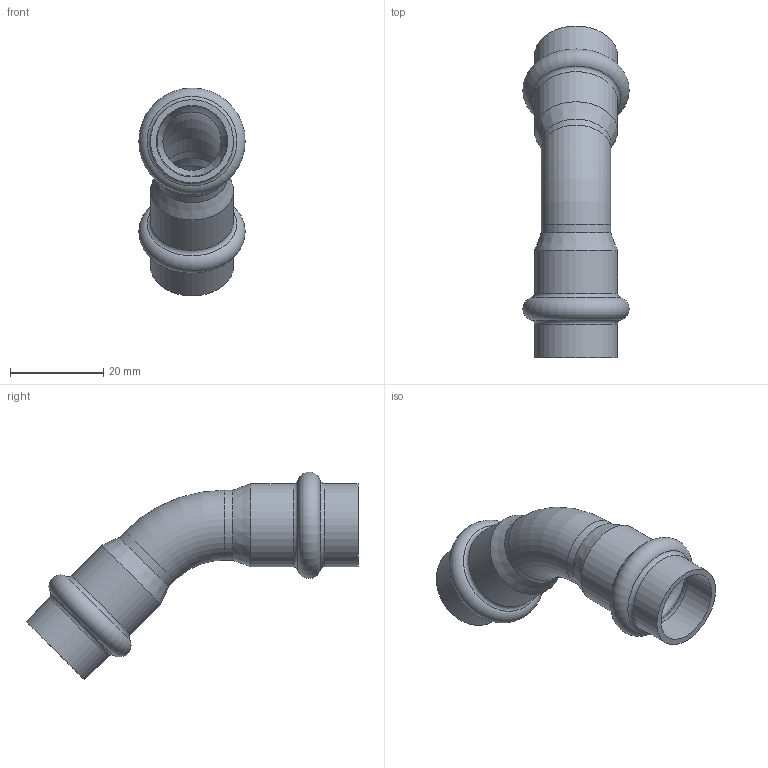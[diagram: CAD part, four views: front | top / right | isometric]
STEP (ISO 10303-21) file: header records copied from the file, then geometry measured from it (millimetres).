
FILE_DESCRIPTION(('STEP AP203'), '1');
FILE_NAME('VTi.959.I.001515', '', ('UNSPECIFIED'), ('UNSPECIFIED'), 'C3D Converter', 'C3D Toolkit', '');
FILE_SCHEMA(('CONFIG_CONTROL_DESIGN'));
Length unit declared in the file: millimetre
Products named in the file (1): ВР.302661.017.000 СБ
Bounding box: 22.79 x 71.16 x 44.56 mm (x, y, z)
Volume: 5639.5 mm3; surface area: 9106 mm2
Topology: 1 solids, 1 shells, 34 faces, 74 edges, 42 vertices
Faces by surface type: torus 16, cylinder 12, cone 4, plane 2
Full cylindrical faces by diameter (mm): 12.5 x2, 15 x2, 15.3 x4, 17.8 x4
Entity records: 808 total; most frequent: DIRECTION 154, CARTESIAN_POINT 119, ORIENTED_EDGE 84, AXIS2_PLACEMENT_3D 77, EDGE_LOOP 68, FACE_OUTER_BOUND 48, EDGE_CURVE 42, VERTEX_POINT 42
